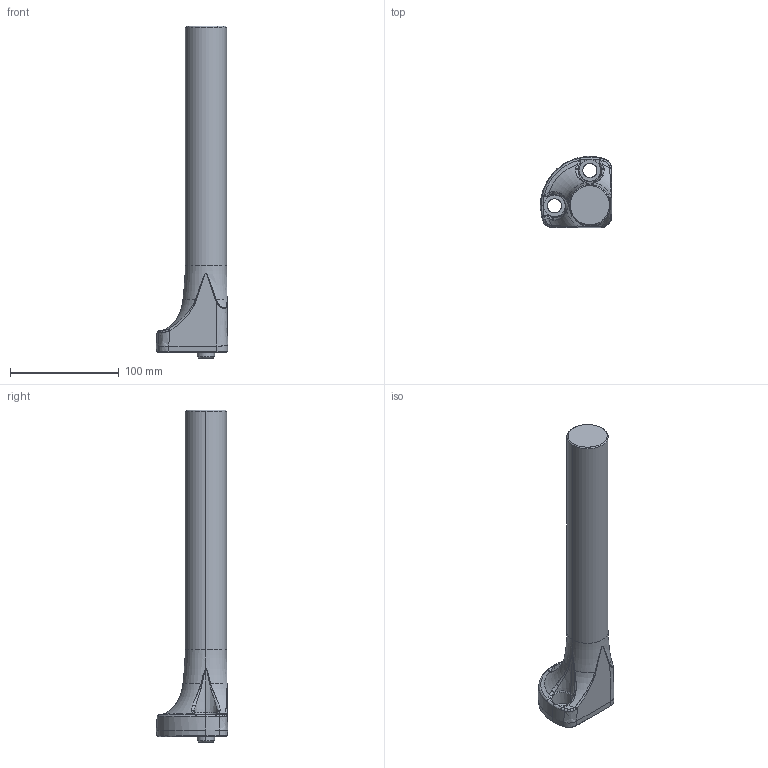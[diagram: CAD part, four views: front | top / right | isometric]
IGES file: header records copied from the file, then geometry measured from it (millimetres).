
Start section: START RECORD GO HERE.
Global section: file name: 722-02+300.igs; native system: DASSAULT SYSTEMES CATIA V5 R20 - www.3ds.com; preprocessor: CATIA Version 5 Release 20 ; author: Utente; organization: NB04-ASUS; date: 20201114.110356; units: millimetre
Bounding box: 65.5 x 65.44 x 305 mm (x, y, z)
Surface area: 47391.7 mm2 (no closed solid volume)
Topology: 0 solids, 0 shells, 118 faces, 654 edges, 652 vertices
Faces by surface type: revolution 53, bspline 48, plane 17
